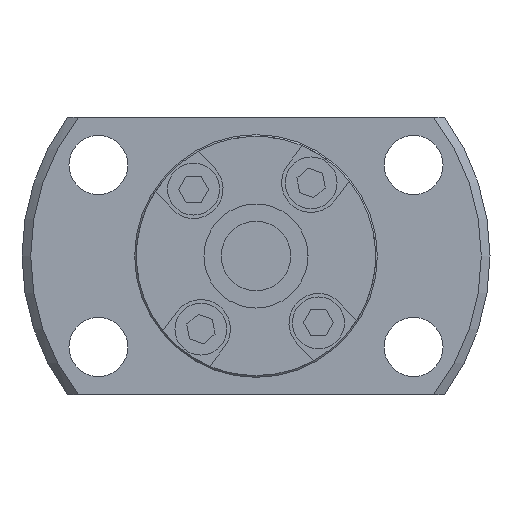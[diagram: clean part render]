
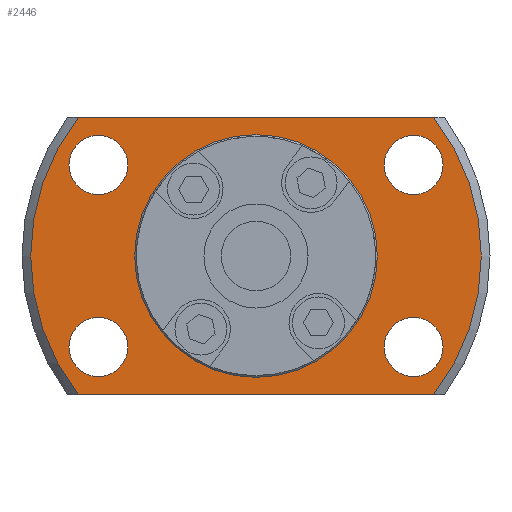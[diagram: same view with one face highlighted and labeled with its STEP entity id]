
A CAD part, left-side view. The second image highlights one B-rep face of the part: STEP entity #2446.
In plain terms, the highlighted planar face has unit normal (-1, 0, 0).
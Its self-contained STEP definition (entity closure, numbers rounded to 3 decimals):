
#122=LINE('',#3887,#346);
#123=LINE('',#3891,#347);
#346=VECTOR('',#3114,1000.);
#347=VECTOR('',#3117,1000.);
#701=ORIENTED_EDGE('',*,*,#1320,.F.);
#702=ORIENTED_EDGE('',*,*,#1321,.F.);
#703=ORIENTED_EDGE('',*,*,#1322,.F.);
#704=ORIENTED_EDGE('',*,*,#1323,.F.);
#705=ORIENTED_EDGE('',*,*,#1276,.F.);
#706=ORIENTED_EDGE('',*,*,#1324,.T.);
#707=ORIENTED_EDGE('',*,*,#1325,.F.);
#708=ORIENTED_EDGE('',*,*,#1326,.T.);
#709=ORIENTED_EDGE('',*,*,#1319,.T.);
#1276=EDGE_CURVE('',#1601,#1602,#1785,.T.);
#1319=EDGE_CURVE('',#1639,#1639,#1807,.T.);
#1320=EDGE_CURVE('',#1640,#1640,#1808,.F.);
#1321=EDGE_CURVE('',#1641,#1641,#1809,.F.);
#1322=EDGE_CURVE('',#1642,#1642,#1810,.F.);
#1323=EDGE_CURVE('',#1643,#1643,#1811,.F.);
#1324=EDGE_CURVE('',#1601,#1644,#122,.T.);
#1325=EDGE_CURVE('',#1645,#1644,#1812,.T.);
#1326=EDGE_CURVE('',#1645,#1602,#123,.T.);
#1601=VERTEX_POINT('',#3777);
#1602=VERTEX_POINT('',#3779);
#1639=VERTEX_POINT('',#3877);
#1640=VERTEX_POINT('',#3880);
#1641=VERTEX_POINT('',#3882);
#1642=VERTEX_POINT('',#3884);
#1643=VERTEX_POINT('',#3886);
#1644=VERTEX_POINT('',#3888);
#1645=VERTEX_POINT('',#3890);
#1785=CIRCLE('',#2648,13.);
#1807=CIRCLE('',#2679,6.8);
#1808=CIRCLE('',#2681,1.7);
#1809=CIRCLE('',#2682,1.7);
#1810=CIRCLE('',#2683,1.7);
#1811=CIRCLE('',#2684,1.7);
#1812=CIRCLE('',#2685,13.);
#1925=EDGE_LOOP('',(#701));
#1926=EDGE_LOOP('',(#702));
#1927=EDGE_LOOP('',(#703));
#1928=EDGE_LOOP('',(#704));
#1929=EDGE_LOOP('',(#705,#706,#707,#708));
#1930=EDGE_LOOP('',(#709));
#2147=FACE_BOUND('',#1925,.T.);
#2148=FACE_BOUND('',#1926,.T.);
#2149=FACE_BOUND('',#1927,.T.);
#2150=FACE_BOUND('',#1928,.T.);
#2151=FACE_BOUND('',#1929,.T.);
#2152=FACE_BOUND('',#1930,.T.);
#2319=PLANE('',#2680);
#2446=ADVANCED_FACE('',(#2147,#2148,#2149,#2150,#2151,#2152),#2319,.F.);
#2648=AXIS2_PLACEMENT_3D('',#3778,#3022,#3023);
#2679=AXIS2_PLACEMENT_3D('',#3876,#3102,#3103);
#2680=AXIS2_PLACEMENT_3D('',#3878,#3104,#3105);
#2681=AXIS2_PLACEMENT_3D('',#3879,#3106,#3107);
#2682=AXIS2_PLACEMENT_3D('',#3881,#3108,#3109);
#2683=AXIS2_PLACEMENT_3D('',#3883,#3110,#3111);
#2684=AXIS2_PLACEMENT_3D('',#3885,#3112,#3113);
#2685=AXIS2_PLACEMENT_3D('',#3889,#3115,#3116);
#3022=DIRECTION('',(1.,0.,0.));
#3023=DIRECTION('',(0.,0.,-1.));
#3102=DIRECTION('',(1.,0.,0.));
#3103=DIRECTION('',(0.,0.,-1.));
#3104=DIRECTION('',(1.,0.,0.));
#3105=DIRECTION('',(0.,0.,-1.));
#3106=DIRECTION('',(1.,0.,0.));
#3107=DIRECTION('',(0.,0.,-1.));
#3108=DIRECTION('',(1.,0.,0.));
#3109=DIRECTION('',(0.,0.,-1.));
#3110=DIRECTION('',(1.,0.,0.));
#3111=DIRECTION('',(0.,0.,-1.));
#3112=DIRECTION('',(1.,0.,0.));
#3113=DIRECTION('',(0.,0.,-1.));
#3114=DIRECTION('',(0.,-1.,0.));
#3115=DIRECTION('',(1.,0.,0.));
#3116=DIRECTION('',(0.,0.,-1.));
#3117=DIRECTION('',(0.,1.,0.));
#3777=CARTESIAN_POINT('',(11.5,10.247,-8.));
#3778=CARTESIAN_POINT('',(11.5,0.,0.));
#3779=CARTESIAN_POINT('',(11.5,10.247,8.));
#3876=CARTESIAN_POINT('',(11.5,0.,0.));
#3877=CARTESIAN_POINT('',(11.5,0.,-6.8));
#3878=CARTESIAN_POINT('',(11.5,6.8,0.));
#3879=CARTESIAN_POINT('',(11.5,-9.093,-5.25));
#3880=CARTESIAN_POINT('',(11.5,-9.093,-6.95));
#3881=CARTESIAN_POINT('',(11.5,-9.093,5.25));
#3882=CARTESIAN_POINT('',(11.5,-9.093,3.55));
#3883=CARTESIAN_POINT('',(11.5,9.093,-5.25));
#3884=CARTESIAN_POINT('',(11.5,9.093,-6.95));
#3885=CARTESIAN_POINT('',(11.5,9.093,5.25));
#3886=CARTESIAN_POINT('',(11.5,9.093,3.55));
#3887=CARTESIAN_POINT('',(11.5,6.8,-8.));
#3888=CARTESIAN_POINT('',(11.5,-10.247,-8.));
#3889=CARTESIAN_POINT('',(11.5,0.,0.));
#3890=CARTESIAN_POINT('',(11.5,-10.247,8.));
#3891=CARTESIAN_POINT('',(11.5,6.8,8.));
